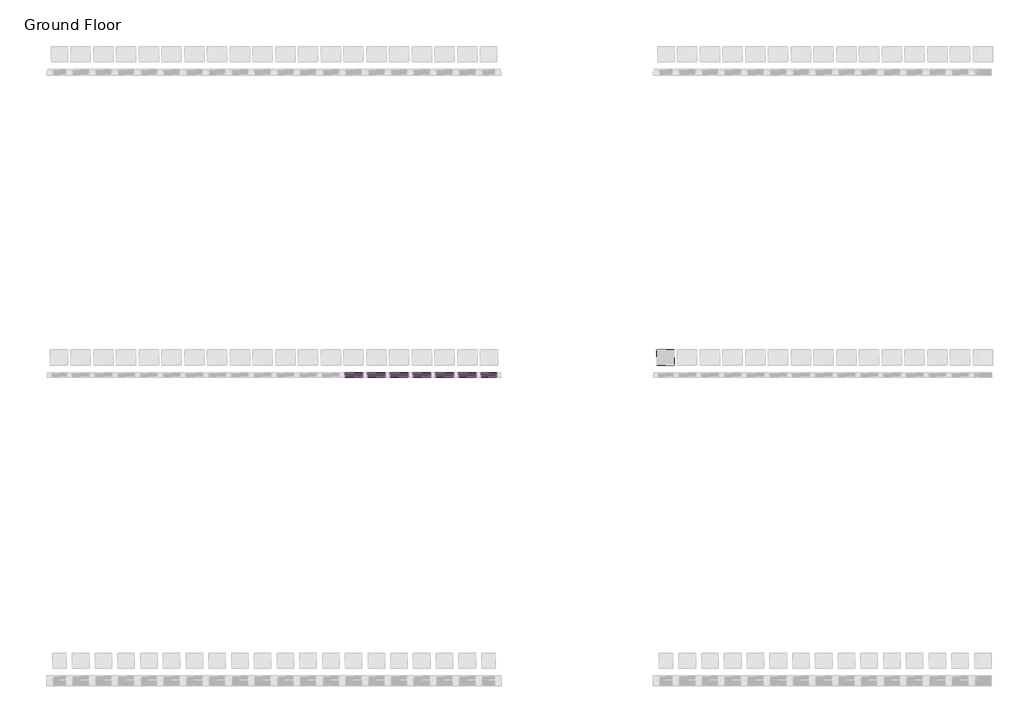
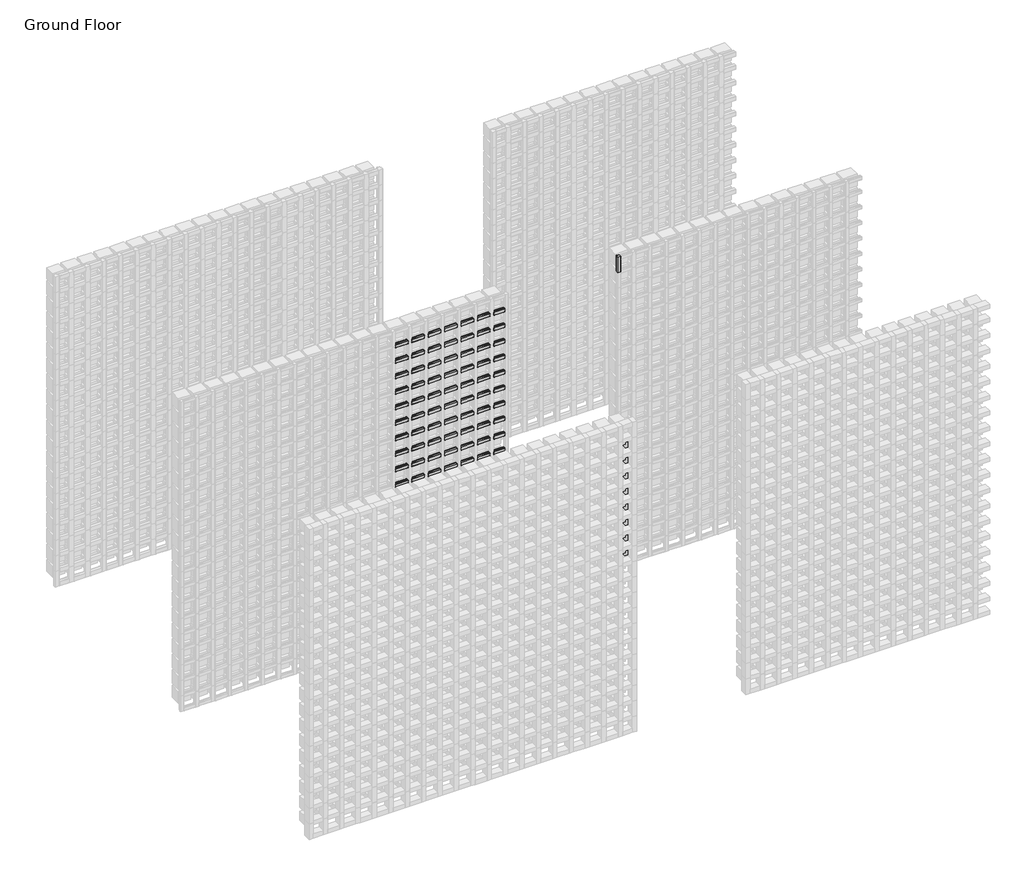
# One storey, part 102 of 350: 135 members, 8 plates.
"""IFC4 building model written with IfcOpenShell, lengths in millimetres."""

from ifc_helpers import new_model, si_unit, origin, place, context, project, spatial, transform, mapped, element, save
from components import rectangular_mullion_e2bab149, rectangular_mullion_707a50c4, rectangular_mullion_7f8dba3f, rectangular_mullion_f16743ad, empty_system_panel_empty_c8609655, empty_system_panel_empty_53187d3d

model = new_model("IFC4")

# Units and contexts
model_context = context("Model", 3, world=origin())
ifc_project = project(units=[si_unit("LENGTHUNIT", "METRE", prefix="MILLI")], contexts=[model_context])

# Site, building, storey
site = spatial("IfcSite", under=ifc_project)
building = spatial("IfcBuilding", under=site)
storey = spatial("IfcBuildingStorey", under=building, Name="Ground Floor", Elevation=0.0)

# Members
placement = place(None, origin())
rectangular_mullion_shape = rectangular_mullion_e2bab149(model_context)
element("IfcMember", 1, ObjectType="Rectangular Mullion : Batten_Timber_Modinex_Austratus_Grid_Fin_30x30_AlaskanYellowCedar", at=placement, inside=storey, context=model_context, shape_type="MappedRepresentation", body=[
    mapped(rectangular_mullion_shape, transform((4886.4361639, 42968.2978302, 150.0), x_axis=(0.0, 0.0, 1.0), y_axis=(0.0, -1.0, 0.0), z_axis=(1.0, 0.0, 0.0))),
])
element("IfcMember", 2, ObjectType="Rectangular Mullion : Batten_Timber_Modinex_Austratus_Grid_Fin_30x30_AlaskanYellowCedar", at=placement, inside=storey, context=model_context, shape_type="MappedRepresentation", body=[
    mapped(rectangular_mullion_shape, transform((4886.4361639, 42968.2978302, 300.0), x_axis=(0.0, 0.0, 1.0), y_axis=(0.0, -1.0, 0.0), z_axis=(1.0, 0.0, 0.0))),
])
element("IfcMember", 3, ObjectType="Rectangular Mullion : Batten_Timber_Modinex_Austratus_Grid_Fin_30x30_AlaskanYellowCedar", at=placement, inside=storey, context=model_context, shape_type="MappedRepresentation", body=[
    mapped(rectangular_mullion_shape, transform((4886.4361639, 42968.2978302, 450.0), x_axis=(0.0, 0.0, 1.0), y_axis=(0.0, -1.0, 0.0), z_axis=(1.0, 0.0, 0.0))),
])
element("IfcMember", 4, ObjectType="Rectangular Mullion : Batten_Timber_Modinex_Austratus_Grid_Fin_30x30_AlaskanYellowCedar", at=placement, inside=storey, context=model_context, shape_type="MappedRepresentation", body=[
    mapped(rectangular_mullion_shape, transform((4886.4361639, 42968.2978302, 600.0), x_axis=(0.0, 0.0, 1.0), y_axis=(0.0, -1.0, 0.0), z_axis=(1.0, 0.0, 0.0))),
])
element("IfcMember", 5, ObjectType="Rectangular Mullion : Batten_Timber_Modinex_Austratus_Grid_Fin_30x30_AlaskanYellowCedar", at=placement, inside=storey, context=model_context, shape_type="MappedRepresentation", body=[
    mapped(rectangular_mullion_shape, transform((4886.4361639, 42968.2978302, 750.0), x_axis=(0.0, 0.0, 1.0), y_axis=(0.0, -1.0, 0.0), z_axis=(1.0, 0.0, 0.0))),
])
element("IfcMember", 6, ObjectType="Rectangular Mullion : Batten_Timber_Modinex_Austratus_Grid_Fin_30x30_AlaskanYellowCedar", at=placement, inside=storey, context=model_context, shape_type="MappedRepresentation", body=[
    mapped(rectangular_mullion_shape, transform((4886.4361639, 42968.2978302, 900.0), x_axis=(0.0, 0.0, 1.0), y_axis=(0.0, -1.0, 0.0), z_axis=(1.0, 0.0, 0.0))),
])
element("IfcMember", 7, ObjectType="Rectangular Mullion : Batten_Timber_Modinex_Austratus_Grid_Fin_30x30_AlaskanYellowCedar", at=placement, inside=storey, context=model_context, shape_type="MappedRepresentation", body=[
    mapped(rectangular_mullion_shape, transform((4886.4361639, 42968.2978302, 1050.0), x_axis=(0.0, 0.0, 1.0), y_axis=(0.0, -1.0, 0.0), z_axis=(1.0, 0.0, 0.0))),
])
element("IfcMember", 8, ObjectType="Rectangular Mullion : Batten_Timber_Modinex_Austratus_Grid_Fin_30x30_AlaskanYellowCedar", at=placement, inside=storey, context=model_context, shape_type="MappedRepresentation", body=[
    mapped(rectangular_mullion_shape, transform((4886.4361639, 42968.2978302, 1200.0), x_axis=(0.0, 0.0, 1.0), y_axis=(0.0, -1.0, 0.0), z_axis=(1.0, 0.0, 0.0))),
])
element("IfcMember", 9, ObjectType="Rectangular Mullion : Batten_Timber_Modinex_Austratus_Grid_Fin_30x30_AlaskanYellowCedar", at=placement, inside=storey, context=model_context, shape_type="MappedRepresentation", body=[
    mapped(rectangular_mullion_shape, transform((4886.4361639, 42968.2978302, 1350.0), x_axis=(0.0, 0.0, 1.0), y_axis=(0.0, -1.0, 0.0), z_axis=(1.0, 0.0, 0.0))),
])
element("IfcMember", 10, ObjectType="Rectangular Mullion : Batten_Timber_Modinex_Austratus_Grid_Fin_30x30_AlaskanYellowCedar", at=placement, inside=storey, context=model_context, shape_type="MappedRepresentation", body=[
    mapped(rectangular_mullion_shape, transform((4886.4361639, 42968.2978302, 1500.0), x_axis=(0.0, 0.0, 1.0), y_axis=(0.0, -1.0, 0.0), z_axis=(1.0, 0.0, 0.0))),
])
element("IfcMember", 11, ObjectType="Rectangular Mullion : Batten_Timber_Modinex_Austratus_Grid_Fin_30x30_AlaskanYellowCedar", at=placement, inside=storey, context=model_context, shape_type="MappedRepresentation", body=[
    mapped(rectangular_mullion_shape, transform((4886.4361639, 42968.2978302, 1650.0), x_axis=(0.0, 0.0, 1.0), y_axis=(0.0, -1.0, 0.0), z_axis=(1.0, 0.0, 0.0))),
])
element("IfcMember", 12, ObjectType="Rectangular Mullion : Batten_Timber_Modinex_Austratus_Grid_Fin_30x30_AlaskanYellowCedar", at=placement, inside=storey, context=model_context, shape_type="MappedRepresentation", body=[
    mapped(rectangular_mullion_shape, transform((4886.4361639, 42968.2978302, 1800.0), x_axis=(0.0, 0.0, 1.0), y_axis=(0.0, -1.0, 0.0), z_axis=(1.0, 0.0, 0.0))),
])
element("IfcMember", 13, ObjectType="Rectangular Mullion : Batten_Timber_Modinex_Austratus_Grid_Fin_30x30_AlaskanYellowCedar", at=placement, inside=storey, context=model_context, shape_type="MappedRepresentation", body=[
    mapped(rectangular_mullion_shape, transform((4886.4361639, 42968.2978302, 1950.0), x_axis=(0.0, 0.0, 1.0), y_axis=(0.0, -1.0, 0.0), z_axis=(1.0, 0.0, 0.0))),
])
element("IfcMember", 14, ObjectType="Rectangular Mullion : Batten_Timber_Modinex_Austratus_Grid_Fin_30x30_AlaskanYellowCedar", at=placement, inside=storey, context=model_context, shape_type="MappedRepresentation", body=[
    mapped(rectangular_mullion_shape, transform((4886.4361639, 42968.2978302, 2100.0), x_axis=(0.0, 0.0, 1.0), y_axis=(0.0, -1.0, 0.0), z_axis=(1.0, 0.0, 0.0))),
])
element("IfcMember", 15, ObjectType="Rectangular Mullion : Batten_Timber_Modinex_Austratus_Grid_Fin_30x30_AlaskanYellowCedar", at=placement, inside=storey, context=model_context, shape_type="MappedRepresentation", body=[
    mapped(rectangular_mullion_shape, transform((4886.4361639, 42968.2978302, 2250.0), x_axis=(0.0, 0.0, 1.0), y_axis=(0.0, -1.0, 0.0), z_axis=(1.0, 0.0, 0.0))),
])
element("IfcMember", 16, ObjectType="Rectangular Mullion : Batten_Timber_Modinex_Austratus_Grid_Fin_30x30_AlaskanYellowCedar", at=placement, inside=storey, context=model_context, shape_type="MappedRepresentation", body=[
    mapped(rectangular_mullion_shape, transform((4886.4361639, 42968.2978302, 2400.0), x_axis=(0.0, 0.0, 1.0), y_axis=(0.0, -1.0, 0.0), z_axis=(1.0, 0.0, 0.0))),
])
element("IfcMember", 17, ObjectType="Rectangular Mullion : Batten_Timber_Modinex_Austratus_Grid_Fin_30x30_AlaskanYellowCedar", at=placement, inside=storey, context=model_context, shape_type="MappedRepresentation", body=[
    mapped(rectangular_mullion_shape, transform((4886.4361639, 42968.2978302, 2550.0), x_axis=(0.0, 0.0, 1.0), y_axis=(0.0, -1.0, 0.0), z_axis=(1.0, 0.0, 0.0))),
])
element("IfcMember", 18, ObjectType="Rectangular Mullion : Batten_Timber_Modinex_Austratus_Grid_Fin_30x30_AlaskanYellowCedar", at=placement, inside=storey, context=model_context, shape_type="MappedRepresentation", body=[
    mapped(rectangular_mullion_shape, transform((4886.4361639, 42968.2978302, 2700.0), x_axis=(0.0, 0.0, 1.0), y_axis=(0.0, -1.0, 0.0), z_axis=(1.0, 0.0, 0.0))),
])
element("IfcMember", 19, ObjectType="Rectangular Mullion : Batten_Timber_Modinex_Austratus_Grid_Fin_30x30_AlaskanYellowCedar", at=placement, inside=storey, context=model_context, shape_type="MappedRepresentation", body=[
    mapped(rectangular_mullion_shape, transform((4886.4361639, 42968.2978302, 2850.0), x_axis=(0.0, 0.0, 1.0), y_axis=(0.0, -1.0, 0.0), z_axis=(1.0, 0.0, 0.0))),
])
rectangular_mullion_2_shape = rectangular_mullion_707a50c4(model_context)
element("IfcMember", 20, ObjectType="Rectangular Mullion : Batten_Timber_Modinex_Austratus_Grid_Fin_30x30_AlaskanYellowCedar", at=placement, inside=storey, context=model_context, shape_type="MappedRepresentation", body=[
    mapped(rectangular_mullion_2_shape, transform((4001.4361642, 42968.2978302, 150.0), x_axis=(0.0, 0.0, 1.0), y_axis=(0.0, -1.0, 0.0), z_axis=(1.0, 0.0, 0.0))),
])
element("IfcMember", 21, ObjectType="Rectangular Mullion : Batten_Timber_Modinex_Austratus_Grid_Fin_30x30_AlaskanYellowCedar", at=placement, inside=storey, context=model_context, shape_type="MappedRepresentation", body=[
    mapped(rectangular_mullion_2_shape, transform((4151.4361642, 42968.2978302, 150.0), x_axis=(0.0, 0.0, 1.0), y_axis=(0.0, -1.0, 0.0), z_axis=(1.0, 0.0, 0.0))),
])
element("IfcMember", 22, ObjectType="Rectangular Mullion : Batten_Timber_Modinex_Austratus_Grid_Fin_30x30_AlaskanYellowCedar", at=placement, inside=storey, context=model_context, shape_type="MappedRepresentation", body=[
    mapped(rectangular_mullion_2_shape, transform((4301.4361642, 42968.2978302, 150.0), x_axis=(0.0, 0.0, 1.0), y_axis=(0.0, -1.0, 0.0), z_axis=(1.0, 0.0, 0.0))),
])
element("IfcMember", 23, ObjectType="Rectangular Mullion : Batten_Timber_Modinex_Austratus_Grid_Fin_30x30_AlaskanYellowCedar", at=placement, inside=storey, context=model_context, shape_type="MappedRepresentation", body=[
    mapped(rectangular_mullion_2_shape, transform((4451.4361642, 42968.2978302, 150.0), x_axis=(0.0, 0.0, 1.0), y_axis=(0.0, -1.0, 0.0), z_axis=(1.0, 0.0, 0.0))),
])
element("IfcMember", 24, ObjectType="Rectangular Mullion : Batten_Timber_Modinex_Austratus_Grid_Fin_30x30_AlaskanYellowCedar", at=placement, inside=storey, context=model_context, shape_type="MappedRepresentation", body=[
    mapped(rectangular_mullion_2_shape, transform((4601.4361642, 42968.2978302, 150.0), x_axis=(0.0, 0.0, 1.0), y_axis=(0.0, -1.0, 0.0), z_axis=(1.0, 0.0, 0.0))),
])
element("IfcMember", 25, ObjectType="Rectangular Mullion : Batten_Timber_Modinex_Austratus_Grid_Fin_30x30_AlaskanYellowCedar", at=placement, inside=storey, context=model_context, shape_type="MappedRepresentation", body=[
    mapped(rectangular_mullion_2_shape, transform((4751.4361642, 42968.2978302, 150.0), x_axis=(0.0, 0.0, 1.0), y_axis=(0.0, -1.0, 0.0), z_axis=(1.0, 0.0, 0.0))),
])
element("IfcMember", 26, ObjectType="Rectangular Mullion : Batten_Timber_Modinex_Austratus_Grid_Fin_30x30_AlaskanYellowCedar", at=placement, inside=storey, context=model_context, shape_type="MappedRepresentation", body=[
    mapped(rectangular_mullion_2_shape, transform((4001.4361642, 42968.2978302, 300.0), x_axis=(0.0, 0.0, 1.0), y_axis=(0.0, -1.0, 0.0), z_axis=(1.0, 0.0, 0.0))),
])
element("IfcMember", 27, ObjectType="Rectangular Mullion : Batten_Timber_Modinex_Austratus_Grid_Fin_30x30_AlaskanYellowCedar", at=placement, inside=storey, context=model_context, shape_type="MappedRepresentation", body=[
    mapped(rectangular_mullion_2_shape, transform((4151.4361642, 42968.2978302, 300.0), x_axis=(0.0, 0.0, 1.0), y_axis=(0.0, -1.0, 0.0), z_axis=(1.0, 0.0, 0.0))),
])
element("IfcMember", 28, ObjectType="Rectangular Mullion : Batten_Timber_Modinex_Austratus_Grid_Fin_30x30_AlaskanYellowCedar", at=placement, inside=storey, context=model_context, shape_type="MappedRepresentation", body=[
    mapped(rectangular_mullion_2_shape, transform((4301.4361642, 42968.2978302, 300.0), x_axis=(0.0, 0.0, 1.0), y_axis=(0.0, -1.0, 0.0), z_axis=(1.0, 0.0, 0.0))),
])
element("IfcMember", 29, ObjectType="Rectangular Mullion : Batten_Timber_Modinex_Austratus_Grid_Fin_30x30_AlaskanYellowCedar", at=placement, inside=storey, context=model_context, shape_type="MappedRepresentation", body=[
    mapped(rectangular_mullion_2_shape, transform((4451.4361642, 42968.2978302, 300.0), x_axis=(0.0, 0.0, 1.0), y_axis=(0.0, -1.0, 0.0), z_axis=(1.0, 0.0, 0.0))),
])
element("IfcMember", 30, ObjectType="Rectangular Mullion : Batten_Timber_Modinex_Austratus_Grid_Fin_30x30_AlaskanYellowCedar", at=placement, inside=storey, context=model_context, shape_type="MappedRepresentation", body=[
    mapped(rectangular_mullion_2_shape, transform((4601.4361642, 42968.2978302, 300.0), x_axis=(0.0, 0.0, 1.0), y_axis=(0.0, -1.0, 0.0), z_axis=(1.0, 0.0, 0.0))),
])
element("IfcMember", 31, ObjectType="Rectangular Mullion : Batten_Timber_Modinex_Austratus_Grid_Fin_30x30_AlaskanYellowCedar", at=placement, inside=storey, context=model_context, shape_type="MappedRepresentation", body=[
    mapped(rectangular_mullion_2_shape, transform((4751.4361642, 42968.2978302, 300.0), x_axis=(0.0, 0.0, 1.0), y_axis=(0.0, -1.0, 0.0), z_axis=(1.0, 0.0, 0.0))),
])
element("IfcMember", 32, ObjectType="Rectangular Mullion : Batten_Timber_Modinex_Austratus_Grid_Fin_30x30_AlaskanYellowCedar", at=placement, inside=storey, context=model_context, shape_type="MappedRepresentation", body=[
    mapped(rectangular_mullion_2_shape, transform((4001.4361642, 42968.2978302, 450.0), x_axis=(0.0, 0.0, 1.0), y_axis=(0.0, -1.0, 0.0), z_axis=(1.0, 0.0, 0.0))),
])
element("IfcMember", 33, ObjectType="Rectangular Mullion : Batten_Timber_Modinex_Austratus_Grid_Fin_30x30_AlaskanYellowCedar", at=placement, inside=storey, context=model_context, shape_type="MappedRepresentation", body=[
    mapped(rectangular_mullion_2_shape, transform((4151.4361642, 42968.2978302, 450.0), x_axis=(0.0, 0.0, 1.0), y_axis=(0.0, -1.0, 0.0), z_axis=(1.0, 0.0, 0.0))),
])
element("IfcMember", 34, ObjectType="Rectangular Mullion : Batten_Timber_Modinex_Austratus_Grid_Fin_30x30_AlaskanYellowCedar", at=placement, inside=storey, context=model_context, shape_type="MappedRepresentation", body=[
    mapped(rectangular_mullion_2_shape, transform((4301.4361642, 42968.2978302, 450.0), x_axis=(0.0, 0.0, 1.0), y_axis=(0.0, -1.0, 0.0), z_axis=(1.0, 0.0, 0.0))),
])
element("IfcMember", 35, ObjectType="Rectangular Mullion : Batten_Timber_Modinex_Austratus_Grid_Fin_30x30_AlaskanYellowCedar", at=placement, inside=storey, context=model_context, shape_type="MappedRepresentation", body=[
    mapped(rectangular_mullion_2_shape, transform((4451.4361642, 42968.2978302, 450.0), x_axis=(0.0, 0.0, 1.0), y_axis=(0.0, -1.0, 0.0), z_axis=(1.0, 0.0, 0.0))),
])
element("IfcMember", 36, ObjectType="Rectangular Mullion : Batten_Timber_Modinex_Austratus_Grid_Fin_30x30_AlaskanYellowCedar", at=placement, inside=storey, context=model_context, shape_type="MappedRepresentation", body=[
    mapped(rectangular_mullion_2_shape, transform((4601.4361642, 42968.2978302, 450.0), x_axis=(0.0, 0.0, 1.0), y_axis=(0.0, -1.0, 0.0), z_axis=(1.0, 0.0, 0.0))),
])
element("IfcMember", 37, ObjectType="Rectangular Mullion : Batten_Timber_Modinex_Austratus_Grid_Fin_30x30_AlaskanYellowCedar", at=placement, inside=storey, context=model_context, shape_type="MappedRepresentation", body=[
    mapped(rectangular_mullion_2_shape, transform((4751.4361642, 42968.2978302, 450.0), x_axis=(0.0, 0.0, 1.0), y_axis=(0.0, -1.0, 0.0), z_axis=(1.0, 0.0, 0.0))),
])
element("IfcMember", 38, ObjectType="Rectangular Mullion : Batten_Timber_Modinex_Austratus_Grid_Fin_30x30_AlaskanYellowCedar", at=placement, inside=storey, context=model_context, shape_type="MappedRepresentation", body=[
    mapped(rectangular_mullion_2_shape, transform((4001.4361642, 42968.2978302, 600.0), x_axis=(0.0, 0.0, 1.0), y_axis=(0.0, -1.0, 0.0), z_axis=(1.0, 0.0, 0.0))),
])
element("IfcMember", 39, ObjectType="Rectangular Mullion : Batten_Timber_Modinex_Austratus_Grid_Fin_30x30_AlaskanYellowCedar", at=placement, inside=storey, context=model_context, shape_type="MappedRepresentation", body=[
    mapped(rectangular_mullion_2_shape, transform((4151.4361642, 42968.2978302, 600.0), x_axis=(0.0, 0.0, 1.0), y_axis=(0.0, -1.0, 0.0), z_axis=(1.0, 0.0, 0.0))),
])
element("IfcMember", 40, ObjectType="Rectangular Mullion : Batten_Timber_Modinex_Austratus_Grid_Fin_30x30_AlaskanYellowCedar", at=placement, inside=storey, context=model_context, shape_type="MappedRepresentation", body=[
    mapped(rectangular_mullion_2_shape, transform((4301.4361642, 42968.2978302, 600.0), x_axis=(0.0, 0.0, 1.0), y_axis=(0.0, -1.0, 0.0), z_axis=(1.0, 0.0, 0.0))),
])
element("IfcMember", 41, ObjectType="Rectangular Mullion : Batten_Timber_Modinex_Austratus_Grid_Fin_30x30_AlaskanYellowCedar", at=placement, inside=storey, context=model_context, shape_type="MappedRepresentation", body=[
    mapped(rectangular_mullion_2_shape, transform((4451.4361642, 42968.2978302, 600.0), x_axis=(0.0, 0.0, 1.0), y_axis=(0.0, -1.0, 0.0), z_axis=(1.0, 0.0, 0.0))),
])
element("IfcMember", 42, ObjectType="Rectangular Mullion : Batten_Timber_Modinex_Austratus_Grid_Fin_30x30_AlaskanYellowCedar", at=placement, inside=storey, context=model_context, shape_type="MappedRepresentation", body=[
    mapped(rectangular_mullion_2_shape, transform((4601.4361642, 42968.2978302, 600.0), x_axis=(0.0, 0.0, 1.0), y_axis=(0.0, -1.0, 0.0), z_axis=(1.0, 0.0, 0.0))),
])
element("IfcMember", 43, ObjectType="Rectangular Mullion : Batten_Timber_Modinex_Austratus_Grid_Fin_30x30_AlaskanYellowCedar", at=placement, inside=storey, context=model_context, shape_type="MappedRepresentation", body=[
    mapped(rectangular_mullion_2_shape, transform((4751.4361642, 42968.2978302, 600.0), x_axis=(0.0, 0.0, 1.0), y_axis=(0.0, -1.0, 0.0), z_axis=(1.0, 0.0, 0.0))),
])
element("IfcMember", 44, ObjectType="Rectangular Mullion : Batten_Timber_Modinex_Austratus_Grid_Fin_30x30_AlaskanYellowCedar", at=placement, inside=storey, context=model_context, shape_type="MappedRepresentation", body=[
    mapped(rectangular_mullion_2_shape, transform((4001.4361642, 42968.2978302, 750.0), x_axis=(0.0, 0.0, 1.0), y_axis=(0.0, -1.0, 0.0), z_axis=(1.0, 0.0, 0.0))),
])
element("IfcMember", 45, ObjectType="Rectangular Mullion : Batten_Timber_Modinex_Austratus_Grid_Fin_30x30_AlaskanYellowCedar", at=placement, inside=storey, context=model_context, shape_type="MappedRepresentation", body=[
    mapped(rectangular_mullion_2_shape, transform((4151.4361642, 42968.2978302, 750.0), x_axis=(0.0, 0.0, 1.0), y_axis=(0.0, -1.0, 0.0), z_axis=(1.0, 0.0, 0.0))),
])
element("IfcMember", 46, ObjectType="Rectangular Mullion : Batten_Timber_Modinex_Austratus_Grid_Fin_30x30_AlaskanYellowCedar", at=placement, inside=storey, context=model_context, shape_type="MappedRepresentation", body=[
    mapped(rectangular_mullion_2_shape, transform((4301.4361642, 42968.2978302, 750.0), x_axis=(0.0, 0.0, 1.0), y_axis=(0.0, -1.0, 0.0), z_axis=(1.0, 0.0, 0.0))),
])
element("IfcMember", 47, ObjectType="Rectangular Mullion : Batten_Timber_Modinex_Austratus_Grid_Fin_30x30_AlaskanYellowCedar", at=placement, inside=storey, context=model_context, shape_type="MappedRepresentation", body=[
    mapped(rectangular_mullion_2_shape, transform((4451.4361642, 42968.2978302, 750.0), x_axis=(0.0, 0.0, 1.0), y_axis=(0.0, -1.0, 0.0), z_axis=(1.0, 0.0, 0.0))),
])
element("IfcMember", 48, ObjectType="Rectangular Mullion : Batten_Timber_Modinex_Austratus_Grid_Fin_30x30_AlaskanYellowCedar", at=placement, inside=storey, context=model_context, shape_type="MappedRepresentation", body=[
    mapped(rectangular_mullion_2_shape, transform((4601.4361642, 42968.2978302, 750.0), x_axis=(0.0, 0.0, 1.0), y_axis=(0.0, -1.0, 0.0), z_axis=(1.0, 0.0, 0.0))),
])
element("IfcMember", 49, ObjectType="Rectangular Mullion : Batten_Timber_Modinex_Austratus_Grid_Fin_30x30_AlaskanYellowCedar", at=placement, inside=storey, context=model_context, shape_type="MappedRepresentation", body=[
    mapped(rectangular_mullion_2_shape, transform((4751.4361642, 42968.2978302, 750.0), x_axis=(0.0, 0.0, 1.0), y_axis=(0.0, -1.0, 0.0), z_axis=(1.0, 0.0, 0.0))),
])
element("IfcMember", 50, ObjectType="Rectangular Mullion : Batten_Timber_Modinex_Austratus_Grid_Fin_30x30_AlaskanYellowCedar", at=placement, inside=storey, context=model_context, shape_type="MappedRepresentation", body=[
    mapped(rectangular_mullion_2_shape, transform((4001.4361642, 42968.2978302, 900.0), x_axis=(0.0, 0.0, 1.0), y_axis=(0.0, -1.0, 0.0), z_axis=(1.0, 0.0, 0.0))),
])
element("IfcMember", 51, ObjectType="Rectangular Mullion : Batten_Timber_Modinex_Austratus_Grid_Fin_30x30_AlaskanYellowCedar", at=placement, inside=storey, context=model_context, shape_type="MappedRepresentation", body=[
    mapped(rectangular_mullion_2_shape, transform((4151.4361642, 42968.2978302, 900.0), x_axis=(0.0, 0.0, 1.0), y_axis=(0.0, -1.0, 0.0), z_axis=(1.0, 0.0, 0.0))),
])
element("IfcMember", 52, ObjectType="Rectangular Mullion : Batten_Timber_Modinex_Austratus_Grid_Fin_30x30_AlaskanYellowCedar", at=placement, inside=storey, context=model_context, shape_type="MappedRepresentation", body=[
    mapped(rectangular_mullion_2_shape, transform((4301.4361642, 42968.2978302, 900.0), x_axis=(0.0, 0.0, 1.0), y_axis=(0.0, -1.0, 0.0), z_axis=(1.0, 0.0, 0.0))),
])
element("IfcMember", 53, ObjectType="Rectangular Mullion : Batten_Timber_Modinex_Austratus_Grid_Fin_30x30_AlaskanYellowCedar", at=placement, inside=storey, context=model_context, shape_type="MappedRepresentation", body=[
    mapped(rectangular_mullion_2_shape, transform((4451.4361642, 42968.2978302, 900.0), x_axis=(0.0, 0.0, 1.0), y_axis=(0.0, -1.0, 0.0), z_axis=(1.0, 0.0, 0.0))),
])
element("IfcMember", 54, ObjectType="Rectangular Mullion : Batten_Timber_Modinex_Austratus_Grid_Fin_30x30_AlaskanYellowCedar", at=placement, inside=storey, context=model_context, shape_type="MappedRepresentation", body=[
    mapped(rectangular_mullion_2_shape, transform((4601.4361642, 42968.2978302, 900.0), x_axis=(0.0, 0.0, 1.0), y_axis=(0.0, -1.0, 0.0), z_axis=(1.0, 0.0, 0.0))),
])
element("IfcMember", 55, ObjectType="Rectangular Mullion : Batten_Timber_Modinex_Austratus_Grid_Fin_30x30_AlaskanYellowCedar", at=placement, inside=storey, context=model_context, shape_type="MappedRepresentation", body=[
    mapped(rectangular_mullion_2_shape, transform((4751.4361642, 42968.2978302, 900.0), x_axis=(0.0, 0.0, 1.0), y_axis=(0.0, -1.0, 0.0), z_axis=(1.0, 0.0, 0.0))),
])
element("IfcMember", 56, ObjectType="Rectangular Mullion : Batten_Timber_Modinex_Austratus_Grid_Fin_30x30_AlaskanYellowCedar", at=placement, inside=storey, context=model_context, shape_type="MappedRepresentation", body=[
    mapped(rectangular_mullion_2_shape, transform((4001.4361642, 42968.2978302, 1050.0), x_axis=(0.0, 0.0, 1.0), y_axis=(0.0, -1.0, 0.0), z_axis=(1.0, 0.0, 0.0))),
])
element("IfcMember", 57, ObjectType="Rectangular Mullion : Batten_Timber_Modinex_Austratus_Grid_Fin_30x30_AlaskanYellowCedar", at=placement, inside=storey, context=model_context, shape_type="MappedRepresentation", body=[
    mapped(rectangular_mullion_2_shape, transform((4151.4361642, 42968.2978302, 1050.0), x_axis=(0.0, 0.0, 1.0), y_axis=(0.0, -1.0, 0.0), z_axis=(1.0, 0.0, 0.0))),
])
element("IfcMember", 58, ObjectType="Rectangular Mullion : Batten_Timber_Modinex_Austratus_Grid_Fin_30x30_AlaskanYellowCedar", at=placement, inside=storey, context=model_context, shape_type="MappedRepresentation", body=[
    mapped(rectangular_mullion_2_shape, transform((4301.4361642, 42968.2978302, 1050.0), x_axis=(0.0, 0.0, 1.0), y_axis=(0.0, -1.0, 0.0), z_axis=(1.0, 0.0, 0.0))),
])
element("IfcMember", 59, ObjectType="Rectangular Mullion : Batten_Timber_Modinex_Austratus_Grid_Fin_30x30_AlaskanYellowCedar", at=placement, inside=storey, context=model_context, shape_type="MappedRepresentation", body=[
    mapped(rectangular_mullion_2_shape, transform((4451.4361642, 42968.2978302, 1050.0), x_axis=(0.0, 0.0, 1.0), y_axis=(0.0, -1.0, 0.0), z_axis=(1.0, 0.0, 0.0))),
])
element("IfcMember", 60, ObjectType="Rectangular Mullion : Batten_Timber_Modinex_Austratus_Grid_Fin_30x30_AlaskanYellowCedar", at=placement, inside=storey, context=model_context, shape_type="MappedRepresentation", body=[
    mapped(rectangular_mullion_2_shape, transform((4601.4361642, 42968.2978302, 1050.0), x_axis=(0.0, 0.0, 1.0), y_axis=(0.0, -1.0, 0.0), z_axis=(1.0, 0.0, 0.0))),
])
element("IfcMember", 61, ObjectType="Rectangular Mullion : Batten_Timber_Modinex_Austratus_Grid_Fin_30x30_AlaskanYellowCedar", at=placement, inside=storey, context=model_context, shape_type="MappedRepresentation", body=[
    mapped(rectangular_mullion_2_shape, transform((4751.4361642, 42968.2978302, 1050.0), x_axis=(0.0, 0.0, 1.0), y_axis=(0.0, -1.0, 0.0), z_axis=(1.0, 0.0, 0.0))),
])
element("IfcMember", 62, ObjectType="Rectangular Mullion : Batten_Timber_Modinex_Austratus_Grid_Fin_30x30_AlaskanYellowCedar", at=placement, inside=storey, context=model_context, shape_type="MappedRepresentation", body=[
    mapped(rectangular_mullion_2_shape, transform((4001.4361642, 42968.2978302, 1200.0), x_axis=(0.0, 0.0, 1.0), y_axis=(0.0, -1.0, 0.0), z_axis=(1.0, 0.0, 0.0))),
])
element("IfcMember", 63, ObjectType="Rectangular Mullion : Batten_Timber_Modinex_Austratus_Grid_Fin_30x30_AlaskanYellowCedar", at=placement, inside=storey, context=model_context, shape_type="MappedRepresentation", body=[
    mapped(rectangular_mullion_2_shape, transform((4151.4361642, 42968.2978302, 1200.0), x_axis=(0.0, 0.0, 1.0), y_axis=(0.0, -1.0, 0.0), z_axis=(1.0, 0.0, 0.0))),
])
element("IfcMember", 64, ObjectType="Rectangular Mullion : Batten_Timber_Modinex_Austratus_Grid_Fin_30x30_AlaskanYellowCedar", at=placement, inside=storey, context=model_context, shape_type="MappedRepresentation", body=[
    mapped(rectangular_mullion_2_shape, transform((4301.4361642, 42968.2978302, 1200.0), x_axis=(0.0, 0.0, 1.0), y_axis=(0.0, -1.0, 0.0), z_axis=(1.0, 0.0, 0.0))),
])
element("IfcMember", 65, ObjectType="Rectangular Mullion : Batten_Timber_Modinex_Austratus_Grid_Fin_30x30_AlaskanYellowCedar", at=placement, inside=storey, context=model_context, shape_type="MappedRepresentation", body=[
    mapped(rectangular_mullion_2_shape, transform((4451.4361642, 42968.2978302, 1200.0), x_axis=(0.0, 0.0, 1.0), y_axis=(0.0, -1.0, 0.0), z_axis=(1.0, 0.0, 0.0))),
])
element("IfcMember", 66, ObjectType="Rectangular Mullion : Batten_Timber_Modinex_Austratus_Grid_Fin_30x30_AlaskanYellowCedar", at=placement, inside=storey, context=model_context, shape_type="MappedRepresentation", body=[
    mapped(rectangular_mullion_2_shape, transform((4601.4361642, 42968.2978302, 1200.0), x_axis=(0.0, 0.0, 1.0), y_axis=(0.0, -1.0, 0.0), z_axis=(1.0, 0.0, 0.0))),
])
element("IfcMember", 67, ObjectType="Rectangular Mullion : Batten_Timber_Modinex_Austratus_Grid_Fin_30x30_AlaskanYellowCedar", at=placement, inside=storey, context=model_context, shape_type="MappedRepresentation", body=[
    mapped(rectangular_mullion_2_shape, transform((4751.4361642, 42968.2978302, 1200.0), x_axis=(0.0, 0.0, 1.0), y_axis=(0.0, -1.0, 0.0), z_axis=(1.0, 0.0, 0.0))),
])
element("IfcMember", 68, ObjectType="Rectangular Mullion : Batten_Timber_Modinex_Austratus_Grid_Fin_30x30_AlaskanYellowCedar", at=placement, inside=storey, context=model_context, shape_type="MappedRepresentation", body=[
    mapped(rectangular_mullion_2_shape, transform((4001.4361642, 42968.2978302, 1350.0), x_axis=(0.0, 0.0, 1.0), y_axis=(0.0, -1.0, 0.0), z_axis=(1.0, 0.0, 0.0))),
])
element("IfcMember", 69, ObjectType="Rectangular Mullion : Batten_Timber_Modinex_Austratus_Grid_Fin_30x30_AlaskanYellowCedar", at=placement, inside=storey, context=model_context, shape_type="MappedRepresentation", body=[
    mapped(rectangular_mullion_2_shape, transform((4151.4361642, 42968.2978302, 1350.0), x_axis=(0.0, 0.0, 1.0), y_axis=(0.0, -1.0, 0.0), z_axis=(1.0, 0.0, 0.0))),
])
element("IfcMember", 70, ObjectType="Rectangular Mullion : Batten_Timber_Modinex_Austratus_Grid_Fin_30x30_AlaskanYellowCedar", at=placement, inside=storey, context=model_context, shape_type="MappedRepresentation", body=[
    mapped(rectangular_mullion_2_shape, transform((4301.4361642, 42968.2978302, 1350.0), x_axis=(0.0, 0.0, 1.0), y_axis=(0.0, -1.0, 0.0), z_axis=(1.0, 0.0, 0.0))),
])
element("IfcMember", 71, ObjectType="Rectangular Mullion : Batten_Timber_Modinex_Austratus_Grid_Fin_30x30_AlaskanYellowCedar", at=placement, inside=storey, context=model_context, shape_type="MappedRepresentation", body=[
    mapped(rectangular_mullion_2_shape, transform((4451.4361642, 42968.2978302, 1350.0), x_axis=(0.0, 0.0, 1.0), y_axis=(0.0, -1.0, 0.0), z_axis=(1.0, 0.0, 0.0))),
])
element("IfcMember", 72, ObjectType="Rectangular Mullion : Batten_Timber_Modinex_Austratus_Grid_Fin_30x30_AlaskanYellowCedar", at=placement, inside=storey, context=model_context, shape_type="MappedRepresentation", body=[
    mapped(rectangular_mullion_2_shape, transform((4601.4361642, 42968.2978302, 1350.0), x_axis=(0.0, 0.0, 1.0), y_axis=(0.0, -1.0, 0.0), z_axis=(1.0, 0.0, 0.0))),
])
element("IfcMember", 73, ObjectType="Rectangular Mullion : Batten_Timber_Modinex_Austratus_Grid_Fin_30x30_AlaskanYellowCedar", at=placement, inside=storey, context=model_context, shape_type="MappedRepresentation", body=[
    mapped(rectangular_mullion_2_shape, transform((4751.4361642, 42968.2978302, 1350.0), x_axis=(0.0, 0.0, 1.0), y_axis=(0.0, -1.0, 0.0), z_axis=(1.0, 0.0, 0.0))),
])
element("IfcMember", 74, ObjectType="Rectangular Mullion : Batten_Timber_Modinex_Austratus_Grid_Fin_30x30_AlaskanYellowCedar", at=placement, inside=storey, context=model_context, shape_type="MappedRepresentation", body=[
    mapped(rectangular_mullion_2_shape, transform((4001.4361642, 42968.2978302, 1500.0), x_axis=(0.0, 0.0, 1.0), y_axis=(0.0, -1.0, 0.0), z_axis=(1.0, 0.0, 0.0))),
])
element("IfcMember", 75, ObjectType="Rectangular Mullion : Batten_Timber_Modinex_Austratus_Grid_Fin_30x30_AlaskanYellowCedar", at=placement, inside=storey, context=model_context, shape_type="MappedRepresentation", body=[
    mapped(rectangular_mullion_2_shape, transform((4151.4361642, 42968.2978302, 1500.0), x_axis=(0.0, 0.0, 1.0), y_axis=(0.0, -1.0, 0.0), z_axis=(1.0, 0.0, 0.0))),
])
element("IfcMember", 76, ObjectType="Rectangular Mullion : Batten_Timber_Modinex_Austratus_Grid_Fin_30x30_AlaskanYellowCedar", at=placement, inside=storey, context=model_context, shape_type="MappedRepresentation", body=[
    mapped(rectangular_mullion_2_shape, transform((4301.4361642, 42968.2978302, 1500.0), x_axis=(0.0, 0.0, 1.0), y_axis=(0.0, -1.0, 0.0), z_axis=(1.0, 0.0, 0.0))),
])
element("IfcMember", 77, ObjectType="Rectangular Mullion : Batten_Timber_Modinex_Austratus_Grid_Fin_30x30_AlaskanYellowCedar", at=placement, inside=storey, context=model_context, shape_type="MappedRepresentation", body=[
    mapped(rectangular_mullion_2_shape, transform((4451.4361642, 42968.2978302, 1500.0), x_axis=(0.0, 0.0, 1.0), y_axis=(0.0, -1.0, 0.0), z_axis=(1.0, 0.0, 0.0))),
])
element("IfcMember", 78, ObjectType="Rectangular Mullion : Batten_Timber_Modinex_Austratus_Grid_Fin_30x30_AlaskanYellowCedar", at=placement, inside=storey, context=model_context, shape_type="MappedRepresentation", body=[
    mapped(rectangular_mullion_2_shape, transform((4601.4361642, 42968.2978302, 1500.0), x_axis=(0.0, 0.0, 1.0), y_axis=(0.0, -1.0, 0.0), z_axis=(1.0, 0.0, 0.0))),
])
element("IfcMember", 79, ObjectType="Rectangular Mullion : Batten_Timber_Modinex_Austratus_Grid_Fin_30x30_AlaskanYellowCedar", at=placement, inside=storey, context=model_context, shape_type="MappedRepresentation", body=[
    mapped(rectangular_mullion_2_shape, transform((4751.4361642, 42968.2978302, 1500.0), x_axis=(0.0, 0.0, 1.0), y_axis=(0.0, -1.0, 0.0), z_axis=(1.0, 0.0, 0.0))),
])
element("IfcMember", 80, ObjectType="Rectangular Mullion : Batten_Timber_Modinex_Austratus_Grid_Fin_30x30_AlaskanYellowCedar", at=placement, inside=storey, context=model_context, shape_type="MappedRepresentation", body=[
    mapped(rectangular_mullion_2_shape, transform((4001.4361642, 42968.2978302, 1650.0), x_axis=(0.0, 0.0, 1.0), y_axis=(0.0, -1.0, 0.0), z_axis=(1.0, 0.0, 0.0))),
])
element("IfcMember", 81, ObjectType="Rectangular Mullion : Batten_Timber_Modinex_Austratus_Grid_Fin_30x30_AlaskanYellowCedar", at=placement, inside=storey, context=model_context, shape_type="MappedRepresentation", body=[
    mapped(rectangular_mullion_2_shape, transform((4151.4361642, 42968.2978302, 1650.0), x_axis=(0.0, 0.0, 1.0), y_axis=(0.0, -1.0, 0.0), z_axis=(1.0, 0.0, 0.0))),
])
element("IfcMember", 82, ObjectType="Rectangular Mullion : Batten_Timber_Modinex_Austratus_Grid_Fin_30x30_AlaskanYellowCedar", at=placement, inside=storey, context=model_context, shape_type="MappedRepresentation", body=[
    mapped(rectangular_mullion_2_shape, transform((4301.4361642, 42968.2978302, 1650.0), x_axis=(0.0, 0.0, 1.0), y_axis=(0.0, -1.0, 0.0), z_axis=(1.0, 0.0, 0.0))),
])
element("IfcMember", 83, ObjectType="Rectangular Mullion : Batten_Timber_Modinex_Austratus_Grid_Fin_30x30_AlaskanYellowCedar", at=placement, inside=storey, context=model_context, shape_type="MappedRepresentation", body=[
    mapped(rectangular_mullion_2_shape, transform((4451.4361642, 42968.2978302, 1650.0), x_axis=(0.0, 0.0, 1.0), y_axis=(0.0, -1.0, 0.0), z_axis=(1.0, 0.0, 0.0))),
])
element("IfcMember", 84, ObjectType="Rectangular Mullion : Batten_Timber_Modinex_Austratus_Grid_Fin_30x30_AlaskanYellowCedar", at=placement, inside=storey, context=model_context, shape_type="MappedRepresentation", body=[
    mapped(rectangular_mullion_2_shape, transform((4601.4361642, 42968.2978302, 1650.0), x_axis=(0.0, 0.0, 1.0), y_axis=(0.0, -1.0, 0.0), z_axis=(1.0, 0.0, 0.0))),
])
element("IfcMember", 85, ObjectType="Rectangular Mullion : Batten_Timber_Modinex_Austratus_Grid_Fin_30x30_AlaskanYellowCedar", at=placement, inside=storey, context=model_context, shape_type="MappedRepresentation", body=[
    mapped(rectangular_mullion_2_shape, transform((4751.4361642, 42968.2978302, 1650.0), x_axis=(0.0, 0.0, 1.0), y_axis=(0.0, -1.0, 0.0), z_axis=(1.0, 0.0, 0.0))),
])
element("IfcMember", 86, ObjectType="Rectangular Mullion : Batten_Timber_Modinex_Austratus_Grid_Fin_30x30_AlaskanYellowCedar", at=placement, inside=storey, context=model_context, shape_type="MappedRepresentation", body=[
    mapped(rectangular_mullion_2_shape, transform((4001.4361642, 42968.2978302, 1800.0), x_axis=(0.0, 0.0, 1.0), y_axis=(0.0, -1.0, 0.0), z_axis=(1.0, 0.0, 0.0))),
])
element("IfcMember", 87, ObjectType="Rectangular Mullion : Batten_Timber_Modinex_Austratus_Grid_Fin_30x30_AlaskanYellowCedar", at=placement, inside=storey, context=model_context, shape_type="MappedRepresentation", body=[
    mapped(rectangular_mullion_2_shape, transform((4151.4361642, 42968.2978302, 1800.0), x_axis=(0.0, 0.0, 1.0), y_axis=(0.0, -1.0, 0.0), z_axis=(1.0, 0.0, 0.0))),
])
element("IfcMember", 88, ObjectType="Rectangular Mullion : Batten_Timber_Modinex_Austratus_Grid_Fin_30x30_AlaskanYellowCedar", at=placement, inside=storey, context=model_context, shape_type="MappedRepresentation", body=[
    mapped(rectangular_mullion_2_shape, transform((4301.4361642, 42968.2978302, 1800.0), x_axis=(0.0, 0.0, 1.0), y_axis=(0.0, -1.0, 0.0), z_axis=(1.0, 0.0, 0.0))),
])
element("IfcMember", 89, ObjectType="Rectangular Mullion : Batten_Timber_Modinex_Austratus_Grid_Fin_30x30_AlaskanYellowCedar", at=placement, inside=storey, context=model_context, shape_type="MappedRepresentation", body=[
    mapped(rectangular_mullion_2_shape, transform((4451.4361642, 42968.2978302, 1800.0), x_axis=(0.0, 0.0, 1.0), y_axis=(0.0, -1.0, 0.0), z_axis=(1.0, 0.0, 0.0))),
])
element("IfcMember", 90, ObjectType="Rectangular Mullion : Batten_Timber_Modinex_Austratus_Grid_Fin_30x30_AlaskanYellowCedar", at=placement, inside=storey, context=model_context, shape_type="MappedRepresentation", body=[
    mapped(rectangular_mullion_2_shape, transform((4601.4361642, 42968.2978302, 1800.0), x_axis=(0.0, 0.0, 1.0), y_axis=(0.0, -1.0, 0.0), z_axis=(1.0, 0.0, 0.0))),
])
element("IfcMember", 91, ObjectType="Rectangular Mullion : Batten_Timber_Modinex_Austratus_Grid_Fin_30x30_AlaskanYellowCedar", at=placement, inside=storey, context=model_context, shape_type="MappedRepresentation", body=[
    mapped(rectangular_mullion_2_shape, transform((4751.4361642, 42968.2978302, 1800.0), x_axis=(0.0, 0.0, 1.0), y_axis=(0.0, -1.0, 0.0), z_axis=(1.0, 0.0, 0.0))),
])
element("IfcMember", 92, ObjectType="Rectangular Mullion : Batten_Timber_Modinex_Austratus_Grid_Fin_30x30_AlaskanYellowCedar", at=placement, inside=storey, context=model_context, shape_type="MappedRepresentation", body=[
    mapped(rectangular_mullion_2_shape, transform((4001.4361642, 42968.2978302, 1950.0), x_axis=(0.0, 0.0, 1.0), y_axis=(0.0, -1.0, 0.0), z_axis=(1.0, 0.0, 0.0))),
])
element("IfcMember", 93, ObjectType="Rectangular Mullion : Batten_Timber_Modinex_Austratus_Grid_Fin_30x30_AlaskanYellowCedar", at=placement, inside=storey, context=model_context, shape_type="MappedRepresentation", body=[
    mapped(rectangular_mullion_2_shape, transform((4151.4361642, 42968.2978302, 1950.0), x_axis=(0.0, 0.0, 1.0), y_axis=(0.0, -1.0, 0.0), z_axis=(1.0, 0.0, 0.0))),
])
element("IfcMember", 94, ObjectType="Rectangular Mullion : Batten_Timber_Modinex_Austratus_Grid_Fin_30x30_AlaskanYellowCedar", at=placement, inside=storey, context=model_context, shape_type="MappedRepresentation", body=[
    mapped(rectangular_mullion_2_shape, transform((4301.4361642, 42968.2978302, 1950.0), x_axis=(0.0, 0.0, 1.0), y_axis=(0.0, -1.0, 0.0), z_axis=(1.0, 0.0, 0.0))),
])
element("IfcMember", 95, ObjectType="Rectangular Mullion : Batten_Timber_Modinex_Austratus_Grid_Fin_30x30_AlaskanYellowCedar", at=placement, inside=storey, context=model_context, shape_type="MappedRepresentation", body=[
    mapped(rectangular_mullion_2_shape, transform((4451.4361642, 42968.2978302, 1950.0), x_axis=(0.0, 0.0, 1.0), y_axis=(0.0, -1.0, 0.0), z_axis=(1.0, 0.0, 0.0))),
])
element("IfcMember", 96, ObjectType="Rectangular Mullion : Batten_Timber_Modinex_Austratus_Grid_Fin_30x30_AlaskanYellowCedar", at=placement, inside=storey, context=model_context, shape_type="MappedRepresentation", body=[
    mapped(rectangular_mullion_2_shape, transform((4601.4361642, 42968.2978302, 1950.0), x_axis=(0.0, 0.0, 1.0), y_axis=(0.0, -1.0, 0.0), z_axis=(1.0, 0.0, 0.0))),
])
element("IfcMember", 97, ObjectType="Rectangular Mullion : Batten_Timber_Modinex_Austratus_Grid_Fin_30x30_AlaskanYellowCedar", at=placement, inside=storey, context=model_context, shape_type="MappedRepresentation", body=[
    mapped(rectangular_mullion_2_shape, transform((4751.4361642, 42968.2978302, 1950.0), x_axis=(0.0, 0.0, 1.0), y_axis=(0.0, -1.0, 0.0), z_axis=(1.0, 0.0, 0.0))),
])
element("IfcMember", 98, ObjectType="Rectangular Mullion : Batten_Timber_Modinex_Austratus_Grid_Fin_30x30_AlaskanYellowCedar", at=placement, inside=storey, context=model_context, shape_type="MappedRepresentation", body=[
    mapped(rectangular_mullion_2_shape, transform((4001.4361642, 42968.2978302, 2100.0), x_axis=(0.0, 0.0, 1.0), y_axis=(0.0, -1.0, 0.0), z_axis=(1.0, 0.0, 0.0))),
])
element("IfcMember", 99, ObjectType="Rectangular Mullion : Batten_Timber_Modinex_Austratus_Grid_Fin_30x30_AlaskanYellowCedar", at=placement, inside=storey, context=model_context, shape_type="MappedRepresentation", body=[
    mapped(rectangular_mullion_2_shape, transform((4151.4361642, 42968.2978302, 2100.0), x_axis=(0.0, 0.0, 1.0), y_axis=(0.0, -1.0, 0.0), z_axis=(1.0, 0.0, 0.0))),
])
element("IfcMember", 100, ObjectType="Rectangular Mullion : Batten_Timber_Modinex_Austratus_Grid_Fin_30x30_AlaskanYellowCedar", at=placement, inside=storey, context=model_context, shape_type="MappedRepresentation", body=[
    mapped(rectangular_mullion_2_shape, transform((4301.4361642, 42968.2978302, 2100.0), x_axis=(0.0, 0.0, 1.0), y_axis=(0.0, -1.0, 0.0), z_axis=(1.0, 0.0, 0.0))),
])
element("IfcMember", 101, ObjectType="Rectangular Mullion : Batten_Timber_Modinex_Austratus_Grid_Fin_30x30_AlaskanYellowCedar", at=placement, inside=storey, context=model_context, shape_type="MappedRepresentation", body=[
    mapped(rectangular_mullion_2_shape, transform((4451.4361642, 42968.2978302, 2100.0), x_axis=(0.0, 0.0, 1.0), y_axis=(0.0, -1.0, 0.0), z_axis=(1.0, 0.0, 0.0))),
])
element("IfcMember", 102, ObjectType="Rectangular Mullion : Batten_Timber_Modinex_Austratus_Grid_Fin_30x30_AlaskanYellowCedar", at=placement, inside=storey, context=model_context, shape_type="MappedRepresentation", body=[
    mapped(rectangular_mullion_2_shape, transform((4601.4361642, 42968.2978302, 2100.0), x_axis=(0.0, 0.0, 1.0), y_axis=(0.0, -1.0, 0.0), z_axis=(1.0, 0.0, 0.0))),
])
element("IfcMember", 103, ObjectType="Rectangular Mullion : Batten_Timber_Modinex_Austratus_Grid_Fin_30x30_AlaskanYellowCedar", at=placement, inside=storey, context=model_context, shape_type="MappedRepresentation", body=[
    mapped(rectangular_mullion_2_shape, transform((4751.4361642, 42968.2978302, 2100.0), x_axis=(0.0, 0.0, 1.0), y_axis=(0.0, -1.0, 0.0), z_axis=(1.0, 0.0, 0.0))),
])
element("IfcMember", 104, ObjectType="Rectangular Mullion : Batten_Timber_Modinex_Austratus_Grid_Fin_30x30_AlaskanYellowCedar", at=placement, inside=storey, context=model_context, shape_type="MappedRepresentation", body=[
    mapped(rectangular_mullion_2_shape, transform((4001.4361642, 42968.2978302, 2250.0), x_axis=(0.0, 0.0, 1.0), y_axis=(0.0, -1.0, 0.0), z_axis=(1.0, 0.0, 0.0))),
])
element("IfcMember", 105, ObjectType="Rectangular Mullion : Batten_Timber_Modinex_Austratus_Grid_Fin_30x30_AlaskanYellowCedar", at=placement, inside=storey, context=model_context, shape_type="MappedRepresentation", body=[
    mapped(rectangular_mullion_2_shape, transform((4151.4361642, 42968.2978302, 2250.0), x_axis=(0.0, 0.0, 1.0), y_axis=(0.0, -1.0, 0.0), z_axis=(1.0, 0.0, 0.0))),
])
element("IfcMember", 106, ObjectType="Rectangular Mullion : Batten_Timber_Modinex_Austratus_Grid_Fin_30x30_AlaskanYellowCedar", at=placement, inside=storey, context=model_context, shape_type="MappedRepresentation", body=[
    mapped(rectangular_mullion_2_shape, transform((4301.4361642, 42968.2978302, 2250.0), x_axis=(0.0, 0.0, 1.0), y_axis=(0.0, -1.0, 0.0), z_axis=(1.0, 0.0, 0.0))),
])
element("IfcMember", 107, ObjectType="Rectangular Mullion : Batten_Timber_Modinex_Austratus_Grid_Fin_30x30_AlaskanYellowCedar", at=placement, inside=storey, context=model_context, shape_type="MappedRepresentation", body=[
    mapped(rectangular_mullion_2_shape, transform((4451.4361642, 42968.2978302, 2250.0), x_axis=(0.0, 0.0, 1.0), y_axis=(0.0, -1.0, 0.0), z_axis=(1.0, 0.0, 0.0))),
])
element("IfcMember", 108, ObjectType="Rectangular Mullion : Batten_Timber_Modinex_Austratus_Grid_Fin_30x30_AlaskanYellowCedar", at=placement, inside=storey, context=model_context, shape_type="MappedRepresentation", body=[
    mapped(rectangular_mullion_2_shape, transform((4601.4361642, 42968.2978302, 2250.0), x_axis=(0.0, 0.0, 1.0), y_axis=(0.0, -1.0, 0.0), z_axis=(1.0, 0.0, 0.0))),
])
element("IfcMember", 109, ObjectType="Rectangular Mullion : Batten_Timber_Modinex_Austratus_Grid_Fin_30x30_AlaskanYellowCedar", at=placement, inside=storey, context=model_context, shape_type="MappedRepresentation", body=[
    mapped(rectangular_mullion_2_shape, transform((4751.4361642, 42968.2978302, 2250.0), x_axis=(0.0, 0.0, 1.0), y_axis=(0.0, -1.0, 0.0), z_axis=(1.0, 0.0, 0.0))),
])
element("IfcMember", 110, ObjectType="Rectangular Mullion : Batten_Timber_Modinex_Austratus_Grid_Fin_30x30_AlaskanYellowCedar", at=placement, inside=storey, context=model_context, shape_type="MappedRepresentation", body=[
    mapped(rectangular_mullion_2_shape, transform((4001.4361642, 42968.2978302, 2400.0), x_axis=(0.0, 0.0, 1.0), y_axis=(0.0, -1.0, 0.0), z_axis=(1.0, 0.0, 0.0))),
])
element("IfcMember", 111, ObjectType="Rectangular Mullion : Batten_Timber_Modinex_Austratus_Grid_Fin_30x30_AlaskanYellowCedar", at=placement, inside=storey, context=model_context, shape_type="MappedRepresentation", body=[
    mapped(rectangular_mullion_2_shape, transform((4151.4361642, 42968.2978302, 2400.0), x_axis=(0.0, 0.0, 1.0), y_axis=(0.0, -1.0, 0.0), z_axis=(1.0, 0.0, 0.0))),
])
element("IfcMember", 112, ObjectType="Rectangular Mullion : Batten_Timber_Modinex_Austratus_Grid_Fin_30x30_AlaskanYellowCedar", at=placement, inside=storey, context=model_context, shape_type="MappedRepresentation", body=[
    mapped(rectangular_mullion_2_shape, transform((4301.4361642, 42968.2978302, 2400.0), x_axis=(0.0, 0.0, 1.0), y_axis=(0.0, -1.0, 0.0), z_axis=(1.0, 0.0, 0.0))),
])
element("IfcMember", 113, ObjectType="Rectangular Mullion : Batten_Timber_Modinex_Austratus_Grid_Fin_30x30_AlaskanYellowCedar", at=placement, inside=storey, context=model_context, shape_type="MappedRepresentation", body=[
    mapped(rectangular_mullion_2_shape, transform((4451.4361642, 42968.2978302, 2400.0), x_axis=(0.0, 0.0, 1.0), y_axis=(0.0, -1.0, 0.0), z_axis=(1.0, 0.0, 0.0))),
])
element("IfcMember", 114, ObjectType="Rectangular Mullion : Batten_Timber_Modinex_Austratus_Grid_Fin_30x30_AlaskanYellowCedar", at=placement, inside=storey, context=model_context, shape_type="MappedRepresentation", body=[
    mapped(rectangular_mullion_2_shape, transform((4601.4361642, 42968.2978302, 2400.0), x_axis=(0.0, 0.0, 1.0), y_axis=(0.0, -1.0, 0.0), z_axis=(1.0, 0.0, 0.0))),
])
element("IfcMember", 115, ObjectType="Rectangular Mullion : Batten_Timber_Modinex_Austratus_Grid_Fin_30x30_AlaskanYellowCedar", at=placement, inside=storey, context=model_context, shape_type="MappedRepresentation", body=[
    mapped(rectangular_mullion_2_shape, transform((4751.4361642, 42968.2978302, 2400.0), x_axis=(0.0, 0.0, 1.0), y_axis=(0.0, -1.0, 0.0), z_axis=(1.0, 0.0, 0.0))),
])
element("IfcMember", 116, ObjectType="Rectangular Mullion : Batten_Timber_Modinex_Austratus_Grid_Fin_30x30_AlaskanYellowCedar", at=placement, inside=storey, context=model_context, shape_type="MappedRepresentation", body=[
    mapped(rectangular_mullion_2_shape, transform((4001.4361642, 42968.2978302, 2550.0), x_axis=(0.0, 0.0, 1.0), y_axis=(0.0, -1.0, 0.0), z_axis=(1.0, 0.0, 0.0))),
])
element("IfcMember", 117, ObjectType="Rectangular Mullion : Batten_Timber_Modinex_Austratus_Grid_Fin_30x30_AlaskanYellowCedar", at=placement, inside=storey, context=model_context, shape_type="MappedRepresentation", body=[
    mapped(rectangular_mullion_2_shape, transform((4151.4361642, 42968.2978302, 2550.0), x_axis=(0.0, 0.0, 1.0), y_axis=(0.0, -1.0, 0.0), z_axis=(1.0, 0.0, 0.0))),
])
element("IfcMember", 118, ObjectType="Rectangular Mullion : Batten_Timber_Modinex_Austratus_Grid_Fin_30x30_AlaskanYellowCedar", at=placement, inside=storey, context=model_context, shape_type="MappedRepresentation", body=[
    mapped(rectangular_mullion_2_shape, transform((4301.4361642, 42968.2978302, 2550.0), x_axis=(0.0, 0.0, 1.0), y_axis=(0.0, -1.0, 0.0), z_axis=(1.0, 0.0, 0.0))),
])
element("IfcMember", 119, ObjectType="Rectangular Mullion : Batten_Timber_Modinex_Austratus_Grid_Fin_30x30_AlaskanYellowCedar", at=placement, inside=storey, context=model_context, shape_type="MappedRepresentation", body=[
    mapped(rectangular_mullion_2_shape, transform((4451.4361642, 42968.2978302, 2550.0), x_axis=(0.0, 0.0, 1.0), y_axis=(0.0, -1.0, 0.0), z_axis=(1.0, 0.0, 0.0))),
])
element("IfcMember", 120, ObjectType="Rectangular Mullion : Batten_Timber_Modinex_Austratus_Grid_Fin_30x30_AlaskanYellowCedar", at=placement, inside=storey, context=model_context, shape_type="MappedRepresentation", body=[
    mapped(rectangular_mullion_2_shape, transform((4601.4361642, 42968.2978302, 2550.0), x_axis=(0.0, 0.0, 1.0), y_axis=(0.0, -1.0, 0.0), z_axis=(1.0, 0.0, 0.0))),
])
element("IfcMember", 121, ObjectType="Rectangular Mullion : Batten_Timber_Modinex_Austratus_Grid_Fin_30x30_AlaskanYellowCedar", at=placement, inside=storey, context=model_context, shape_type="MappedRepresentation", body=[
    mapped(rectangular_mullion_2_shape, transform((4751.4361642, 42968.2978302, 2550.0), x_axis=(0.0, 0.0, 1.0), y_axis=(0.0, -1.0, 0.0), z_axis=(1.0, 0.0, 0.0))),
])
element("IfcMember", 122, ObjectType="Rectangular Mullion : Batten_Timber_Modinex_Austratus_Grid_Fin_30x30_AlaskanYellowCedar", at=placement, inside=storey, context=model_context, shape_type="MappedRepresentation", body=[
    mapped(rectangular_mullion_2_shape, transform((4001.4361642, 42968.2978302, 2700.0), x_axis=(0.0, 0.0, 1.0), y_axis=(0.0, -1.0, 0.0), z_axis=(1.0, 0.0, 0.0))),
])
element("IfcMember", 123, ObjectType="Rectangular Mullion : Batten_Timber_Modinex_Austratus_Grid_Fin_30x30_AlaskanYellowCedar", at=placement, inside=storey, context=model_context, shape_type="MappedRepresentation", body=[
    mapped(rectangular_mullion_2_shape, transform((4151.4361642, 42968.2978302, 2700.0), x_axis=(0.0, 0.0, 1.0), y_axis=(0.0, -1.0, 0.0), z_axis=(1.0, 0.0, 0.0))),
])
element("IfcMember", 124, ObjectType="Rectangular Mullion : Batten_Timber_Modinex_Austratus_Grid_Fin_30x30_AlaskanYellowCedar", at=placement, inside=storey, context=model_context, shape_type="MappedRepresentation", body=[
    mapped(rectangular_mullion_2_shape, transform((4301.4361642, 42968.2978302, 2700.0), x_axis=(0.0, 0.0, 1.0), y_axis=(0.0, -1.0, 0.0), z_axis=(1.0, 0.0, 0.0))),
])
element("IfcMember", 125, ObjectType="Rectangular Mullion : Batten_Timber_Modinex_Austratus_Grid_Fin_30x30_AlaskanYellowCedar", at=placement, inside=storey, context=model_context, shape_type="MappedRepresentation", body=[
    mapped(rectangular_mullion_2_shape, transform((4451.4361642, 42968.2978302, 2700.0), x_axis=(0.0, 0.0, 1.0), y_axis=(0.0, -1.0, 0.0), z_axis=(1.0, 0.0, 0.0))),
])
element("IfcMember", 126, ObjectType="Rectangular Mullion : Batten_Timber_Modinex_Austratus_Grid_Fin_30x30_AlaskanYellowCedar", at=placement, inside=storey, context=model_context, shape_type="MappedRepresentation", body=[
    mapped(rectangular_mullion_2_shape, transform((4601.4361642, 42968.2978302, 2700.0), x_axis=(0.0, 0.0, 1.0), y_axis=(0.0, -1.0, 0.0), z_axis=(1.0, 0.0, 0.0))),
])
element("IfcMember", 127, ObjectType="Rectangular Mullion : Batten_Timber_Modinex_Austratus_Grid_Fin_30x30_AlaskanYellowCedar", at=placement, inside=storey, context=model_context, shape_type="MappedRepresentation", body=[
    mapped(rectangular_mullion_2_shape, transform((4751.4361642, 42968.2978302, 2700.0), x_axis=(0.0, 0.0, 1.0), y_axis=(0.0, -1.0, 0.0), z_axis=(1.0, 0.0, 0.0))),
])
element("IfcMember", 128, ObjectType="Rectangular Mullion : Batten_Timber_Modinex_Austratus_Grid_Fin_30x30_AlaskanYellowCedar", at=placement, inside=storey, context=model_context, shape_type="MappedRepresentation", body=[
    mapped(rectangular_mullion_2_shape, transform((4001.4361642, 42968.2978302, 2850.0), x_axis=(0.0, 0.0, 1.0), y_axis=(0.0, -1.0, 0.0), z_axis=(1.0, 0.0, 0.0))),
])
element("IfcMember", 129, ObjectType="Rectangular Mullion : Batten_Timber_Modinex_Austratus_Grid_Fin_30x30_AlaskanYellowCedar", at=placement, inside=storey, context=model_context, shape_type="MappedRepresentation", body=[
    mapped(rectangular_mullion_2_shape, transform((4151.4361642, 42968.2978302, 2850.0), x_axis=(0.0, 0.0, 1.0), y_axis=(0.0, -1.0, 0.0), z_axis=(1.0, 0.0, 0.0))),
])
element("IfcMember", 130, ObjectType="Rectangular Mullion : Batten_Timber_Modinex_Austratus_Grid_Fin_30x30_AlaskanYellowCedar", at=placement, inside=storey, context=model_context, shape_type="MappedRepresentation", body=[
    mapped(rectangular_mullion_2_shape, transform((4301.4361642, 42968.2978302, 2850.0), x_axis=(0.0, 0.0, 1.0), y_axis=(0.0, -1.0, 0.0), z_axis=(1.0, 0.0, 0.0))),
])
element("IfcMember", 131, ObjectType="Rectangular Mullion : Batten_Timber_Modinex_Austratus_Grid_Fin_30x30_AlaskanYellowCedar", at=placement, inside=storey, context=model_context, shape_type="MappedRepresentation", body=[
    mapped(rectangular_mullion_2_shape, transform((4451.4361642, 42968.2978302, 2850.0), x_axis=(0.0, 0.0, 1.0), y_axis=(0.0, -1.0, 0.0), z_axis=(1.0, 0.0, 0.0))),
])
element("IfcMember", 132, ObjectType="Rectangular Mullion : Batten_Timber_Modinex_Austratus_Grid_Fin_30x30_AlaskanYellowCedar", at=placement, inside=storey, context=model_context, shape_type="MappedRepresentation", body=[
    mapped(rectangular_mullion_2_shape, transform((4601.4361642, 42968.2978302, 2850.0), x_axis=(0.0, 0.0, 1.0), y_axis=(0.0, -1.0, 0.0), z_axis=(1.0, 0.0, 0.0))),
])
element("IfcMember", 133, ObjectType="Rectangular Mullion : Batten_Timber_Modinex_Austratus_Grid_Fin_30x30_AlaskanYellowCedar", at=placement, inside=storey, context=model_context, shape_type="MappedRepresentation", body=[
    mapped(rectangular_mullion_2_shape, transform((4751.4361642, 42968.2978302, 2850.0), x_axis=(0.0, 0.0, 1.0), y_axis=(0.0, -1.0, 0.0), z_axis=(1.0, 0.0, 0.0))),
])
rectangular_mullion_3_shape = rectangular_mullion_7f8dba3f(model_context)
element("IfcMember", 134, ObjectType="Rectangular Mullion : Batten_Timber_Modinex_Austratus_Grid_Fin_30x30_Blackbutt", at=placement, inside=storey, context=model_context, shape_type="MappedRepresentation", body=[
    mapped(rectangular_mullion_3_shape, transform((5946.4361639, 42968.2978302, 0.0), x_axis=(0.0, 0.0, -1.0), y_axis=(0.0, -1.0, 0.0), z_axis=(-1.0, 0.0, 0.0))),
])
rectangular_mullion_4_shape = rectangular_mullion_f16743ad(model_context)
element("IfcMember", 135, ObjectType="Rectangular Mullion : Batten_Timber_Modinex_Austratus_Grid_Fin_30x30_Blackbutt", at=placement, inside=storey, context=model_context, shape_type="MappedRepresentation", body=[
    mapped(rectangular_mullion_4_shape, transform((5916.4361639, 42968.2978302, 3000.0), x_axis=(-1.0, 0.0, 0.0), y_axis=(0.0, -1.0, 0.0), z_axis=(0.0, 0.0, 1.0))),
])

# Plates
empty_system_panel_empty_shape = empty_system_panel_empty_c8609655(model_context)
element("IfcPlate", 136, ObjectType="Empty System Panel : Empty", at=placement, inside=storey, context=model_context, shape_type="MappedRepresentation", body=[
    mapped(empty_system_panel_empty_shape, transform((5998.9361641, 42968.2978302, 25.812195), x_axis=(1.0, 0.0, 0.0), y_axis=(0.0, 1.0, 0.0), z_axis=(0.0, 0.0, 1.0))),
])
empty_system_panel_empty_2_shape = empty_system_panel_empty_53187d3d(model_context)
element("IfcPlate", 137, ObjectType="Empty System Panel : Empty", at=placement, inside=storey, context=model_context, shape_type="MappedRepresentation", body=[
    mapped(empty_system_panel_empty_2_shape, transform((5998.9361641, 42968.2978302, 160.812195), x_axis=(1.0, 0.0, 0.0), y_axis=(0.0, 1.0, 0.0), z_axis=(0.0, 0.0, 1.0))),
])
element("IfcPlate", 138, ObjectType="Empty System Panel : Empty", at=placement, inside=storey, context=model_context, shape_type="MappedRepresentation", body=[
    mapped(empty_system_panel_empty_2_shape, transform((5998.9361641, 42968.2978302, 310.812195), x_axis=(1.0, 0.0, 0.0), y_axis=(0.0, 1.0, 0.0), z_axis=(0.0, 0.0, 1.0))),
])
element("IfcPlate", 139, ObjectType="Empty System Panel : Empty", at=placement, inside=storey, context=model_context, shape_type="MappedRepresentation", body=[
    mapped(empty_system_panel_empty_2_shape, transform((5998.9361641, 42968.2978302, 460.812195), x_axis=(1.0, 0.0, 0.0), y_axis=(0.0, 1.0, 0.0), z_axis=(0.0, 0.0, 1.0))),
])
element("IfcPlate", 140, ObjectType="Empty System Panel : Empty", at=placement, inside=storey, context=model_context, shape_type="MappedRepresentation", body=[
    mapped(empty_system_panel_empty_2_shape, transform((5998.9361641, 42968.2978302, 610.812195), x_axis=(1.0, 0.0, 0.0), y_axis=(0.0, 1.0, 0.0), z_axis=(0.0, 0.0, 1.0))),
])
element("IfcPlate", 141, ObjectType="Empty System Panel : Empty", at=placement, inside=storey, context=model_context, shape_type="MappedRepresentation", body=[
    mapped(empty_system_panel_empty_2_shape, transform((5998.9361641, 42968.2978302, 760.812195), x_axis=(1.0, 0.0, 0.0), y_axis=(0.0, 1.0, 0.0), z_axis=(0.0, 0.0, 1.0))),
])
element("IfcPlate", 142, ObjectType="Empty System Panel : Empty", at=placement, inside=storey, context=model_context, shape_type="MappedRepresentation", body=[
    mapped(empty_system_panel_empty_2_shape, transform((5998.9361641, 42968.2978302, 910.812195), x_axis=(1.0, 0.0, 0.0), y_axis=(0.0, 1.0, 0.0), z_axis=(0.0, 0.0, 1.0))),
])
element("IfcPlate", 143, ObjectType="Empty System Panel : Empty", at=placement, inside=storey, context=model_context, shape_type="MappedRepresentation", body=[
    mapped(empty_system_panel_empty_2_shape, transform((5998.9361641, 42968.2978302, 1060.812195), x_axis=(1.0, 0.0, 0.0), y_axis=(0.0, 1.0, 0.0), z_axis=(0.0, 0.0, 1.0))),
])

save(model, "model.ifc")
